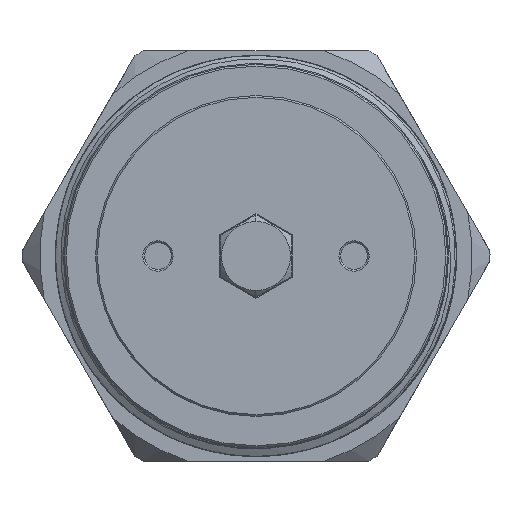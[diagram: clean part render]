
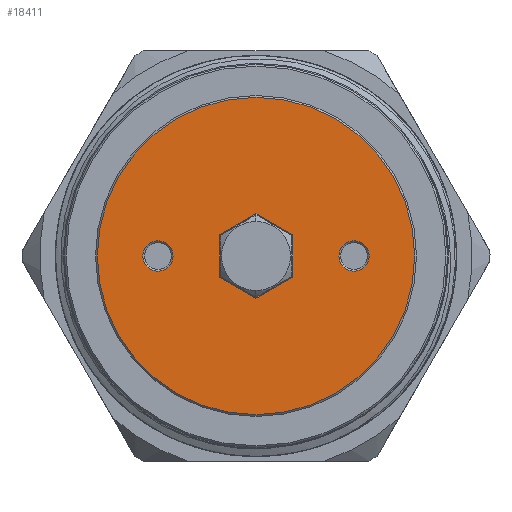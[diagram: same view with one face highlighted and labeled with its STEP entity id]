
A CAD part, front view. The second image highlights one B-rep face of the part: STEP entity #18411.
In plain terms, the highlighted planar face has unit normal (0, -1, 0).
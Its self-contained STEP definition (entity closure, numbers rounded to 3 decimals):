
#17844=CARTESIAN_POINT('',(0.,0.,0.));
#17845=DIRECTION('',(0.,-1.,0.));
#17846=DIRECTION('',(-1.,0.,0.));
#17847=AXIS2_PLACEMENT_3D('',#17844,#17845,#17846);
#17849=CARTESIAN_POINT('',(0.,0.,0.));
#17850=DIRECTION('',(0.,-1.,0.));
#17851=DIRECTION('',(1.,0.,0.));
#17852=AXIS2_PLACEMENT_3D('',#17849,#17850,#17851);
#17854=CARTESIAN_POINT('',(-11.,0.,0.));
#17855=DIRECTION('',(0.,1.,0.));
#17856=DIRECTION('',(1.,0.,0.));
#17857=AXIS2_PLACEMENT_3D('',#17854,#17855,#17856);
#17859=CARTESIAN_POINT('',(-11.,0.,0.));
#17860=DIRECTION('',(0.,1.,0.));
#17861=DIRECTION('',(-1.,0.,0.));
#17862=AXIS2_PLACEMENT_3D('',#17859,#17860,#17861);
#17864=CARTESIAN_POINT('',(11.,0.,0.));
#17865=DIRECTION('',(0.,1.,0.));
#17866=DIRECTION('',(1.,0.,0.));
#17867=AXIS2_PLACEMENT_3D('',#17864,#17865,#17866);
#17869=CARTESIAN_POINT('',(11.,0.,0.));
#17870=DIRECTION('',(0.,1.,0.));
#17871=DIRECTION('',(-1.,0.,0.));
#17872=AXIS2_PLACEMENT_3D('',#17869,#17870,#17871);
#17874=DIRECTION('',(-0.866,0.,0.5));
#17875=VECTOR('',#17874,4.734);
#17876=CARTESIAN_POINT('',(4.1,0.,2.367));
#17877=LINE('',#17876,#17875);
#17878=DIRECTION('',(-0.866,0.,-0.5));
#17879=VECTOR('',#17878,4.734);
#17880=CARTESIAN_POINT('',(0.,0.,4.734));
#17881=LINE('',#17880,#17879);
#17882=DIRECTION('',(0.,0.,-1.));
#17883=VECTOR('',#17882,4.734);
#17884=CARTESIAN_POINT('',(-4.1,0.,2.367));
#17885=LINE('',#17884,#17883);
#17886=DIRECTION('',(0.866,0.,-0.5));
#17887=VECTOR('',#17886,4.734);
#17888=CARTESIAN_POINT('',(-4.1,0.,-2.367));
#17889=LINE('',#17888,#17887);
#17890=DIRECTION('',(0.866,0.,0.5));
#17891=VECTOR('',#17890,4.734);
#17892=CARTESIAN_POINT('',(0.,0.,-4.734));
#17893=LINE('',#17892,#17891);
#17894=DIRECTION('',(0.,0.,1.));
#17895=VECTOR('',#17894,4.734);
#17896=CARTESIAN_POINT('',(4.1,0.,-2.367));
#17897=LINE('',#17896,#17895);
#18294=CARTESIAN_POINT('',(-17.8,0.,0.));
#18295=CARTESIAN_POINT('',(17.8,0.,0.));
#18296=VERTEX_POINT('',#18294);
#18297=VERTEX_POINT('',#18295);
#18302=CARTESIAN_POINT('',(-9.3,0.,0.));
#18303=CARTESIAN_POINT('',(-12.7,0.,0.));
#18304=VERTEX_POINT('',#18302);
#18305=VERTEX_POINT('',#18303);
#18318=CARTESIAN_POINT('',(12.7,0.,0.));
#18319=CARTESIAN_POINT('',(9.3,0.,0.));
#18320=VERTEX_POINT('',#18318);
#18321=VERTEX_POINT('',#18319);
#18342=CARTESIAN_POINT('',(4.1,0.,2.367));
#18343=CARTESIAN_POINT('',(0.,0.,4.734));
#18344=VERTEX_POINT('',#18342);
#18345=VERTEX_POINT('',#18343);
#18352=CARTESIAN_POINT('',(-4.1,0.,2.367));
#18353=VERTEX_POINT('',#18352);
#18356=CARTESIAN_POINT('',(-4.1,0.,-2.367));
#18357=VERTEX_POINT('',#18356);
#18360=CARTESIAN_POINT('',(0.,0.,-4.734));
#18361=VERTEX_POINT('',#18360);
#18364=CARTESIAN_POINT('',(4.1,0.,-2.367));
#18365=VERTEX_POINT('',#18364);
#18374=CARTESIAN_POINT('',(0.,0.,0.));
#18375=DIRECTION('',(0.,1.,0.));
#18376=DIRECTION('',(1.,0.,0.));
#18377=AXIS2_PLACEMENT_3D('',#18374,#18375,#18376);
#18378=PLANE('',#18377);
#18380=ORIENTED_EDGE('',*,*,#18379,.F.);
#18382=ORIENTED_EDGE('',*,*,#18381,.F.);
#18383=EDGE_LOOP('',(#18380,#18382));
#18384=FACE_OUTER_BOUND('',#18383,.F.);
#18386=ORIENTED_EDGE('',*,*,#18385,.F.);
#18388=ORIENTED_EDGE('',*,*,#18387,.F.);
#18389=EDGE_LOOP('',(#18386,#18388));
#18390=FACE_BOUND('',#18389,.F.);
#18392=ORIENTED_EDGE('',*,*,#18391,.F.);
#18394=ORIENTED_EDGE('',*,*,#18393,.F.);
#18395=EDGE_LOOP('',(#18392,#18394));
#18396=FACE_BOUND('',#18395,.F.);
#18398=ORIENTED_EDGE('',*,*,#18397,.T.);
#18400=ORIENTED_EDGE('',*,*,#18399,.T.);
#18402=ORIENTED_EDGE('',*,*,#18401,.T.);
#18404=ORIENTED_EDGE('',*,*,#18403,.T.);
#18406=ORIENTED_EDGE('',*,*,#18405,.T.);
#18408=ORIENTED_EDGE('',*,*,#18407,.T.);
#18409=EDGE_LOOP('',(#18398,#18400,#18402,#18404,#18406,#18408));
#18410=FACE_BOUND('',#18409,.F.);
#18411=ADVANCED_FACE('',(#18384,#18390,#18396,#18410),#18378,.F.);
#17848=CIRCLE('',#17847,17.8);
#17853=CIRCLE('',#17852,17.8);
#17858=CIRCLE('',#17857,1.7);
#17863=CIRCLE('',#17862,1.7);
#17868=CIRCLE('',#17867,1.7);
#17873=CIRCLE('',#17872,1.7);
#18379=EDGE_CURVE('',#18296,#18297,#17848,.T.);
#18381=EDGE_CURVE('',#18297,#18296,#17853,.T.);
#18385=EDGE_CURVE('',#18304,#18305,#17858,.T.);
#18387=EDGE_CURVE('',#18305,#18304,#17863,.T.);
#18391=EDGE_CURVE('',#18320,#18321,#17868,.T.);
#18393=EDGE_CURVE('',#18321,#18320,#17873,.T.);
#18397=EDGE_CURVE('',#18344,#18345,#17877,.T.);
#18399=EDGE_CURVE('',#18345,#18353,#17881,.T.);
#18401=EDGE_CURVE('',#18353,#18357,#17885,.T.);
#18403=EDGE_CURVE('',#18357,#18361,#17889,.T.);
#18405=EDGE_CURVE('',#18361,#18365,#17893,.T.);
#18407=EDGE_CURVE('',#18365,#18344,#17897,.T.);
